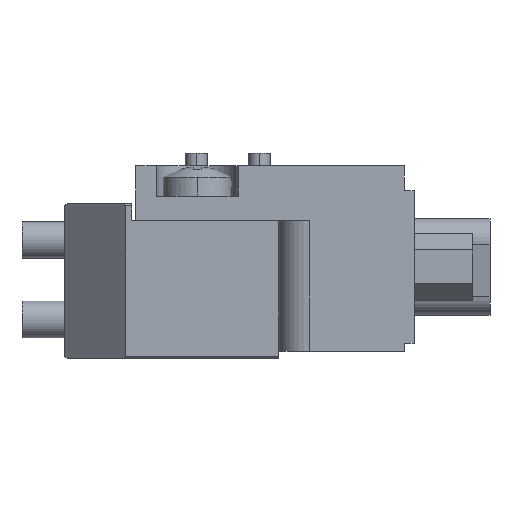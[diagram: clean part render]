
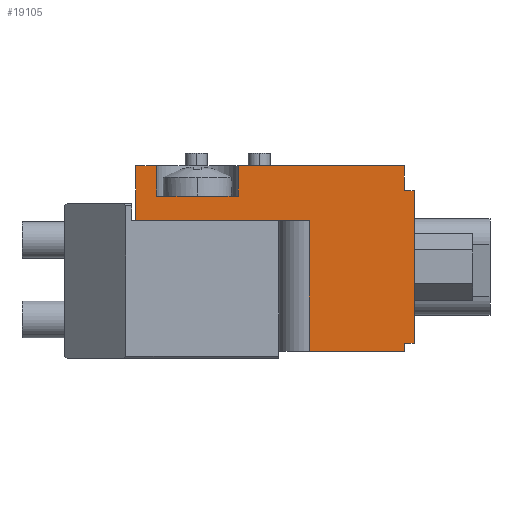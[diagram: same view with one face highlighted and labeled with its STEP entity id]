
A CAD part, left-side view. The second image highlights one B-rep face of the part: STEP entity #19105.
In plain terms, the highlighted planar face has unit normal (1, 0, 0).
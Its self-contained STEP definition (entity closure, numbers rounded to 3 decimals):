
#214 = CARTESIAN_POINT ( 'NONE',  ( -15.15, 8.15, -3.5 ) ) ;
#261 = EDGE_CURVE ( 'NONE', #3915, #17807, #2961, .T. ) ;
#264 = LINE ( 'NONE', #10503, #295 ) ;
#295 = VECTOR ( 'NONE', #19625, 1000. ) ;
#817 = VECTOR ( 'NONE', #4129, 1000. ) ;
#1259 = VECTOR ( 'NONE', #5398, 1000. ) ;
#1283 = AXIS2_PLACEMENT_3D ( 'NONE', #1873, #3420, #14126 ) ;
#1284 = CARTESIAN_POINT ( 'NONE',  ( -15.15, -12.15, -3.04 ) ) ;
#1296 = LINE ( 'NONE', #3856, #1259 ) ;
#1342 = CARTESIAN_POINT ( 'NONE',  ( -15.15, 1.45, -1. ) ) ;
#1368 = DIRECTION ( 'NONE',  ( 0., 0., -1. ) ) ;
#1448 = CARTESIAN_POINT ( 'NONE',  ( -15.15, 8.15, -16.2 ) ) ;
#1519 = VECTOR ( 'NONE', #17205, 1000. ) ;
#1556 = VERTEX_POINT ( 'NONE', #19015 ) ;
#1845 = LINE ( 'NONE', #19156, #9999 ) ;
#1873 = CARTESIAN_POINT ( 'NONE',  ( -15.15, 8.15, -16.2 ) ) ;
#1920 = CARTESIAN_POINT ( 'NONE',  ( -15.15, -4.35, -16.2 ) ) ;
#2005 = CARTESIAN_POINT ( 'NONE',  ( -15.15, 9.85, -1. ) ) ;
#2027 = CARTESIAN_POINT ( 'NONE',  ( -15.15, -12.95, -3.04 ) ) ;
#2201 = ORIENTED_EDGE ( 'NONE', *, *, #2539, .T. ) ;
#2223 = VERTEX_POINT ( 'NONE', #14646 ) ;
#2539 = EDGE_CURVE ( 'NONE', #3372, #17593, #9819, .T. ) ;
#2884 = VECTOR ( 'NONE', #11995, 1000. ) ;
#2961 = LINE ( 'NONE', #12146, #2884 ) ;
#3013 = EDGE_CURVE ( 'NONE', #14752, #17127, #7143, .T. ) ;
#3174 = VECTOR ( 'NONE', #13674, 1000. ) ;
#3266 = EDGE_CURVE ( 'NONE', #9733, #2223, #5445, .T. ) ;
#3372 = VERTEX_POINT ( 'NONE', #6678 ) ;
#3393 = ORIENTED_EDGE ( 'NONE', *, *, #6811, .T. ) ;
#3420 = DIRECTION ( 'NONE',  ( -1., 0., 0. ) ) ;
#3639 = LINE ( 'NONE', #1448, #3174 ) ;
#3712 = VECTOR ( 'NONE', #1368, 1000. ) ;
#3822 = CARTESIAN_POINT ( 'NONE',  ( -15.15, -12.15, -15.54 ) ) ;
#3843 = DIRECTION ( 'NONE',  ( 0., 1., 0. ) ) ;
#3856 = CARTESIAN_POINT ( 'NONE',  ( -15.15, 9.85, -1. ) ) ;
#3915 = VERTEX_POINT ( 'NONE', #7867 ) ;
#4129 = DIRECTION ( 'NONE',  ( 0., -1., 0. ) ) ;
#4203 = EDGE_CURVE ( 'NONE', #9733, #10036, #264, .T. ) ;
#4916 = LINE ( 'NONE', #7145, #817 ) ;
#4928 = VERTEX_POINT ( 'NONE', #10957 ) ;
#5329 = ORIENTED_EDGE ( 'NONE', *, *, #15714, .F. ) ;
#5360 = EDGE_CURVE ( 'NONE', #17127, #17807, #1296, .T. ) ;
#5398 = DIRECTION ( 'NONE',  ( 0., 1., 0. ) ) ;
#5402 = VECTOR ( 'NONE', #15265, 1000. ) ;
#5445 = LINE ( 'NONE', #15669, #5402 ) ;
#5957 = EDGE_CURVE ( 'NONE', #4928, #12096, #1845, .T. ) ;
#6241 = VERTEX_POINT ( 'NONE', #14314 ) ;
#6313 = VECTOR ( 'NONE', #10799, 1000. ) ;
#6581 = ORIENTED_EDGE ( 'NONE', *, *, #14989, .F. ) ;
#6614 = EDGE_CURVE ( 'NONE', #3915, #1556, #14739, .T. ) ;
#6678 = CARTESIAN_POINT ( 'NONE',  ( -15.15, -12.95, -15.54 ) ) ;
#6778 = CARTESIAN_POINT ( 'NONE',  ( -15.15, -12.15, -15.54 ) ) ;
#6811 = EDGE_CURVE ( 'NONE', #17593, #6241, #12352, .T. ) ;
#7143 = LINE ( 'NONE', #11706, #7521 ) ;
#7145 = CARTESIAN_POINT ( 'NONE',  ( -15.15, -12.15, -3.04 ) ) ;
#7259 = VECTOR ( 'NONE', #7526, 1000. ) ;
#7345 = VERTEX_POINT ( 'NONE', #9078 ) ;
#7521 = VECTOR ( 'NONE', #8660, 1000. ) ;
#7526 = DIRECTION ( 'NONE',  ( 0., -1., 0. ) ) ;
#7617 = LINE ( 'NONE', #8607, #15240 ) ;
#7867 = CARTESIAN_POINT ( 'NONE',  ( -15.15, 1.45, -3.5 ) ) ;
#8338 = DIRECTION ( 'NONE',  ( 0., 1., 0. ) ) ;
#8607 = CARTESIAN_POINT ( 'NONE',  ( -15.15, -12.95, -16.2 ) ) ;
#8633 = DIRECTION ( 'NONE',  ( 0., 0., -1. ) ) ;
#8660 = DIRECTION ( 'NONE',  ( 0., 0., 1. ) ) ;
#8900 = VECTOR ( 'NONE', #9370, 1000. ) ;
#8930 = EDGE_CURVE ( 'NONE', #2223, #11146, #11308, .T. ) ;
#9033 = CARTESIAN_POINT ( 'NONE',  ( -15.15, -12.15, -16.2 ) ) ;
#9078 = CARTESIAN_POINT ( 'NONE',  ( -15.15, 5.704, -3.5 ) ) ;
#9151 = VERTEX_POINT ( 'NONE', #14784 ) ;
#9370 = DIRECTION ( 'NONE',  ( 0., 1., 0. ) ) ;
#9502 = DIRECTION ( 'NONE',  ( 0., 1., 0. ) ) ;
#9681 = LINE ( 'NONE', #1920, #1519 ) ;
#9723 = VECTOR ( 'NONE', #8338, 1000. ) ;
#9733 = VERTEX_POINT ( 'NONE', #19301 ) ;
#9819 = LINE ( 'NONE', #6778, #9723 ) ;
#9999 = VECTOR ( 'NONE', #8633, 1000. ) ;
#10036 = VERTEX_POINT ( 'NONE', #2005 ) ;
#10102 = DIRECTION ( 'NONE',  ( 0., 0., 1. ) ) ;
#10503 = CARTESIAN_POINT ( 'NONE',  ( -15.15, 9.85, -16.2 ) ) ;
#10680 = VECTOR ( 'NONE', #9502, 1000. ) ;
#10799 = DIRECTION ( 'NONE',  ( 0., 1., 0. ) ) ;
#10836 = LINE ( 'NONE', #19675, #6313 ) ;
#10878 = CARTESIAN_POINT ( 'NONE',  ( -15.15, 8.15, -3.5 ) ) ;
#10957 = CARTESIAN_POINT ( 'NONE',  ( -15.15, 8.15, -1. ) ) ;
#11041 = PLANE ( 'NONE',  #1283 ) ;
#11119 = ORIENTED_EDGE ( 'NONE', *, *, #8930, .F. ) ;
#11146 = VERTEX_POINT ( 'NONE', #13363 ) ;
#11308 = LINE ( 'NONE', #18120, #7259 ) ;
#11346 = ORIENTED_EDGE ( 'NONE', *, *, #3266, .F. ) ;
#11635 = ORIENTED_EDGE ( 'NONE', *, *, #4203, .T. ) ;
#11706 = CARTESIAN_POINT ( 'NONE',  ( -15.15, -12.15, -16.2 ) ) ;
#11917 = ORIENTED_EDGE ( 'NONE', *, *, #15778, .F. ) ;
#11995 = DIRECTION ( 'NONE',  ( 0., 0., 1. ) ) ;
#12096 = VERTEX_POINT ( 'NONE', #13064 ) ;
#12146 = CARTESIAN_POINT ( 'NONE',  ( -15.15, 1.45, -16.2 ) ) ;
#12352 = LINE ( 'NONE', #9033, #3712 ) ;
#12655 = EDGE_CURVE ( 'NONE', #3372, #13990, #7617, .T. ) ;
#13064 = CARTESIAN_POINT ( 'NONE',  ( -15.15, 8.15, -3.5 ) ) ;
#13241 = EDGE_CURVE ( 'NONE', #1556, #7345, #15224, .T. ) ;
#13363 = CARTESIAN_POINT ( 'NONE',  ( -15.15, -4.35, -5.5 ) ) ;
#13674 = DIRECTION ( 'NONE',  ( 0., -1., 0. ) ) ;
#13741 = ORIENTED_EDGE ( 'NONE', *, *, #5957, .T. ) ;
#13990 = VERTEX_POINT ( 'NONE', #2027 ) ;
#14126 = DIRECTION ( 'NONE',  ( 0., 0., 1. ) ) ;
#14164 = ORIENTED_EDGE ( 'NONE', *, *, #17436, .F. ) ;
#14174 = EDGE_CURVE ( 'NONE', #14752, #13990, #4916, .T. ) ;
#14314 = CARTESIAN_POINT ( 'NONE',  ( -15.15, -12.15, -16.2 ) ) ;
#14546 = CARTESIAN_POINT ( 'NONE',  ( -15.15, 8.15, -3.5 ) ) ;
#14646 = CARTESIAN_POINT ( 'NONE',  ( -15.15, -1.85, -5.5 ) ) ;
#14739 = LINE ( 'NONE', #14546, #18684 ) ;
#14752 = VERTEX_POINT ( 'NONE', #1284 ) ;
#14784 = CARTESIAN_POINT ( 'NONE',  ( -15.15, -4.35, -16.2 ) ) ;
#14989 = EDGE_CURVE ( 'NONE', #11146, #9151, #9681, .T. ) ;
#15071 = FACE_OUTER_BOUND ( 'NONE', #17007, .T. ) ;
#15181 = ORIENTED_EDGE ( 'NONE', *, *, #13241, .F. ) ;
#15224 = LINE ( 'NONE', #10878, #10680 ) ;
#15240 = VECTOR ( 'NONE', #10102, 1000. ) ;
#15265 = DIRECTION ( 'NONE',  ( 0., -1., 0. ) ) ;
#15669 = CARTESIAN_POINT ( 'NONE',  ( -15.15, 8.15, -5.5 ) ) ;
#15714 = EDGE_CURVE ( 'NONE', #9151, #6241, #3639, .T. ) ;
#15778 = EDGE_CURVE ( 'NONE', #4928, #10036, #10836, .T. ) ;
#15779 = LINE ( 'NONE', #214, #8900 ) ;
#15835 = ORIENTED_EDGE ( 'NONE', *, *, #6614, .F. ) ;
#16281 = CARTESIAN_POINT ( 'NONE',  ( -15.15, -12.15, -1. ) ) ;
#17007 = EDGE_LOOP ( 'NONE', ( #11119, #11346, #11635, #11917, #13741, #14164, #15181, #15835, #17313, #18621, #18954, #19081, #19431, #2201, #3393, #5329, #6581 ) ) ;
#17127 = VERTEX_POINT ( 'NONE', #16281 ) ;
#17205 = DIRECTION ( 'NONE',  ( 0., 0., -1. ) ) ;
#17313 = ORIENTED_EDGE ( 'NONE', *, *, #261, .T. ) ;
#17436 = EDGE_CURVE ( 'NONE', #7345, #12096, #15779, .T. ) ;
#17593 = VERTEX_POINT ( 'NONE', #3822 ) ;
#17807 = VERTEX_POINT ( 'NONE', #1342 ) ;
#18120 = CARTESIAN_POINT ( 'NONE',  ( -15.15, 8.15, -5.5 ) ) ;
#18621 = ORIENTED_EDGE ( 'NONE', *, *, #5360, .F. ) ;
#18684 = VECTOR ( 'NONE', #3843, 1000. ) ;
#18954 = ORIENTED_EDGE ( 'NONE', *, *, #3013, .F. ) ;
#19015 = CARTESIAN_POINT ( 'NONE',  ( -15.15, 3.896, -3.5 ) ) ;
#19081 = ORIENTED_EDGE ( 'NONE', *, *, #14174, .T. ) ;
#19105 = ADVANCED_FACE ( 'NONE', ( #15071 ), #11041, .F. ) ;
#19156 = CARTESIAN_POINT ( 'NONE',  ( -15.15, 8.15, -16.2 ) ) ;
#19301 = CARTESIAN_POINT ( 'NONE',  ( -15.15, 9.85, -5.5 ) ) ;
#19431 = ORIENTED_EDGE ( 'NONE', *, *, #12655, .F. ) ;
#19625 = DIRECTION ( 'NONE',  ( 0., 0., 1. ) ) ;
#19675 = CARTESIAN_POINT ( 'NONE',  ( -15.15, 8.15, -1. ) ) ;
